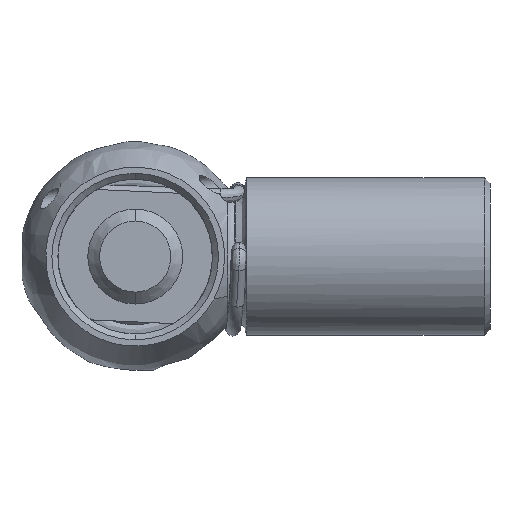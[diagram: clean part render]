
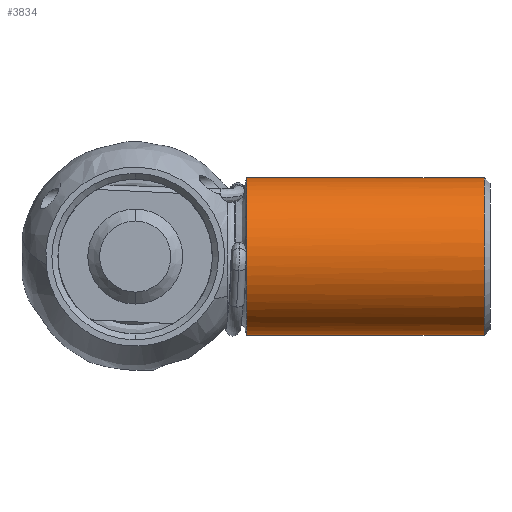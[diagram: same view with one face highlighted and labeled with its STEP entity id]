
A CAD part, front view. The second image highlights one B-rep face of the part: STEP entity #3834.
In plain terms, the highlighted cylindrical face has radius 6.65 mm (diameter 13.3 mm), a partial arc.
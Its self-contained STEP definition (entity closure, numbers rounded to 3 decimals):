
#80 = CARTESIAN_POINT ( 'NONE',  ( -20.597, -5.81, -3.353 ) ) ;
#122 = EDGE_LOOP ( 'NONE', ( #8399, #4148, #1113, #2313 ) ) ;
#164 = CARTESIAN_POINT ( 'NONE',  ( -20.597, 0., -6.652 ) ) ;
#358 = DIRECTION ( 'NONE',  ( -1., 0., 0. ) ) ;
#571 = CIRCLE ( 'NONE', #5716, 6.65 ) ;
#678 = CARTESIAN_POINT ( 'NONE',  ( -0.597, 0., 0. ) ) ;
#844 = CARTESIAN_POINT ( 'NONE',  ( -20.597, -5.317, -4.091 ) ) ;
#1113 = ORIENTED_EDGE ( 'NONE', *, *, #5172, .T. ) ;
#1315 = CARTESIAN_POINT ( 'NONE',  ( -20.597, 0., 6.648 ) ) ;
#1377 = CARTESIAN_POINT ( 'NONE',  ( -20.597, 0., -6.652 ) ) ;
#1542 = CARTESIAN_POINT ( 'NONE',  ( -20.597, -0.87, 6.646 ) ) ;
#1576 = CARTESIAN_POINT ( 'NONE',  ( -20.597, -5.81, 3.345 ) ) ;
#1675 = CARTESIAN_POINT ( 'NONE',  ( -0.597, 0., -6.65 ) ) ;
#2234 = CARTESIAN_POINT ( 'NONE',  ( -20.597, -1.74, -6.481 ) ) ;
#2313 = ORIENTED_EDGE ( 'NONE', *, *, #6059, .F. ) ;
#2358 = AXIS2_PLACEMENT_3D ( 'NONE', #8385, #358, #8419 ) ;
#2527 = FACE_OUTER_BOUND ( 'NONE', #122, .T. ) ;
#3058 = CARTESIAN_POINT ( 'NONE',  ( -20.597, -1.74, 6.473 ) ) ;
#3165 = VERTEX_POINT ( 'NONE', #164 ) ;
#3318 = CYLINDRICAL_SURFACE ( 'NONE', #2358, 6.65 ) ;
#3583 = CARTESIAN_POINT ( 'NONE',  ( -20.597, -0.87, -6.654 ) ) ;
#3637 = VECTOR ( 'NONE', #8350, 1000. ) ;
#3706 = VERTEX_POINT ( 'NONE', #1675 ) ;
#3747 = CARTESIAN_POINT ( 'NONE',  ( -20.597, -5.317, 4.083 ) ) ;
#3834 = ADVANCED_FACE ( 'NONE', ( #2527 ), #3318, .T. ) ;
#4148 = ORIENTED_EDGE ( 'NONE', *, *, #8797, .T. ) ;
#4238 = EDGE_CURVE ( 'NONE', #3706, #3165, #4895, .T. ) ;
#4483 = CARTESIAN_POINT ( 'NONE',  ( -20.597, -4.086, 5.314 ) ) ;
#4895 = LINE ( 'NONE', #5315, #5593 ) ;
#5172 = EDGE_CURVE ( 'NONE', #8889, #8579, #6763, .T. ) ;
#5213 = CARTESIAN_POINT ( 'NONE',  ( -20.597, 0., 6.648 ) ) ;
#5315 = CARTESIAN_POINT ( 'NONE',  ( -0.097, 0., -6.65 ) ) ;
#5345 = DIRECTION ( 'NONE',  ( -1., 0., 0. ) ) ;
#5416 = B_SPLINE_CURVE_WITH_KNOTS ( 'NONE', 3,
 ( #1377, #3583, #2234, #5896, #7304, #844, #80, #6003, #5932, #8140, #8807, #1576, #3747, #4483, #7448, #3058, #1542, #5213 ),
 .UNSPECIFIED., .F., .F.,
 ( 4, 2, 2, 2, 2, 2, 2, 2, 4 ),
 ( 0.25, 0.313, 0.375, 0.438, 0.5, 0.563, 0.625, 0.688, 0.75 ),
 .UNSPECIFIED. ) ;
#5593 = VECTOR ( 'NONE', #5345, 1000. ) ;
#5716 = AXIS2_PLACEMENT_3D ( 'NONE', #678, #6508, #7247 ) ;
#5896 = CARTESIAN_POINT ( 'NONE',  ( -20.597, -3.349, -5.815 ) ) ;
#5932 = CARTESIAN_POINT ( 'NONE',  ( -20.597, -6.65, -0.875 ) ) ;
#6003 = CARTESIAN_POINT ( 'NONE',  ( -20.597, -6.477, -1.745 ) ) ;
#6059 = EDGE_CURVE ( 'NONE', #3165, #8579, #5416, .T. ) ;
#6508 = DIRECTION ( 'NONE',  ( -1., 0., 0. ) ) ;
#6763 = LINE ( 'NONE', #7643, #3637 ) ;
#7247 = DIRECTION ( 'NONE',  ( 0., 0., -1. ) ) ;
#7304 = CARTESIAN_POINT ( 'NONE',  ( -20.597, -4.086, -5.322 ) ) ;
#7448 = CARTESIAN_POINT ( 'NONE',  ( -20.597, -3.349, 5.806 ) ) ;
#7643 = CARTESIAN_POINT ( 'NONE',  ( -0.097, 0., 6.65 ) ) ;
#8140 = CARTESIAN_POINT ( 'NONE',  ( -20.597, -6.65, 0.866 ) ) ;
#8350 = DIRECTION ( 'NONE',  ( -1., 0., 0. ) ) ;
#8385 = CARTESIAN_POINT ( 'NONE',  ( -0.097, 0., 0. ) ) ;
#8399 = ORIENTED_EDGE ( 'NONE', *, *, #4238, .F. ) ;
#8419 = DIRECTION ( 'NONE',  ( 0., 0., 1. ) ) ;
#8579 = VERTEX_POINT ( 'NONE', #1315 ) ;
#8646 = CARTESIAN_POINT ( 'NONE',  ( -0.597, 0., 6.65 ) ) ;
#8797 = EDGE_CURVE ( 'NONE', #3706, #8889, #571, .T. ) ;
#8807 = CARTESIAN_POINT ( 'NONE',  ( -20.597, -6.477, 1.736 ) ) ;
#8889 = VERTEX_POINT ( 'NONE', #8646 ) ;
